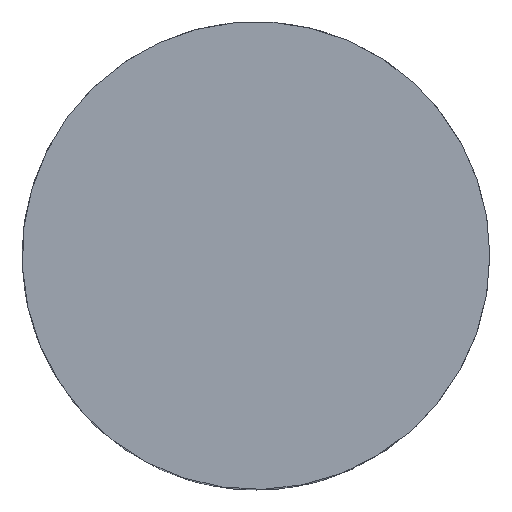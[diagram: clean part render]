
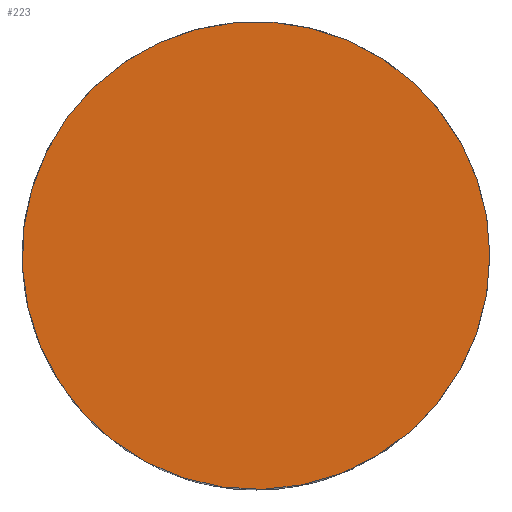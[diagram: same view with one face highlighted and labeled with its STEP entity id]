
A CAD part, top view. The second image highlights one B-rep face of the part: STEP entity #223.
In plain terms, the highlighted planar face has unit normal (0, 0, 1).
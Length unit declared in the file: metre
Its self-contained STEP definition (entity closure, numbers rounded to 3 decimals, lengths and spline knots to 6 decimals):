
#12=PLANE('',#254);
#62=CIRCLE('',#249,0.00725);
#80=ORIENTED_EDGE('',*,*,#129,.T.);
#129=EDGE_CURVE('',#158,#158,#62,.T.);
#158=VERTEX_POINT('',#357);
#183=EDGE_LOOP('',(#80));
#203=FACE_BOUND('',#183,.T.);
#223=ADVANCED_FACE('',(#203),#12,.T.);
#249=AXIS2_PLACEMENT_3D('',#356,#272,#273);
#254=AXIS2_PLACEMENT_3D('',#374,#286,#287);
#272=DIRECTION('',(0.,0.,1.));
#273=DIRECTION('',(1.,0.,0.));
#286=DIRECTION('',(0.,0.,1.));
#287=DIRECTION('',(1.,0.,0.));
#356=CARTESIAN_POINT('',(0.,0.,0.0025));
#357=CARTESIAN_POINT('',(0.00725,0.,0.0025));
#374=CARTESIAN_POINT('',(0.,0.,0.0025));
